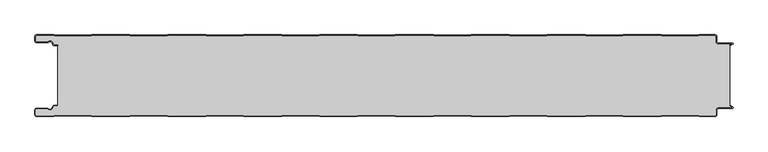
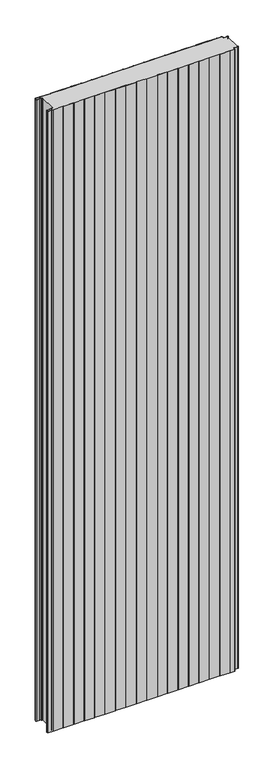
"""IFC4 building model written with IfcOpenShell, lengths in millimetres: plate geometry, ACH_Panel-Frigorífico_PUR-PIR : ACH_Panel-Frigorífico-PIR_120mm."""

from ifc_helpers import new_model, si_unit, point, frame_2d, origin, origin_with_axes, place, context, project, spatial, polyline, circle_curve, trimmed, segment, composite_curve, outline, extrude, source, transform, mapped, element, save


def plate_315d219d(model_context):
    return source(origin(), model_context, "Body", "SweptSolid", [
        extrude(outline(composite_curve([segment(trimmed(circle_curve(frame_2d((-497.49499, -9.0180361)), 2.50501), [point((-497.49499, -11.5230461))], [point((-500.0, -9.0180361))], False, "CARTESIAN"), True, "CONTINUOUS"), segment(polyline([(-500.0, -9.0180361), (-500.0, -2.50501)]), True, "CONTINUOUS"), segment(trimmed(circle_curve(frame_2d((-497.49499, -2.50501)), 2.50501), [point((-500.0, -2.50501))], [point((-497.49499, 0.0))], False, "CARTESIAN"), True, "CONTINUOUS"), segment(polyline([(-497.49499, 0.0), (-472.2103007, 0.0), (-471.028188, -0.6012024), (-417.6391467, -0.6012024), (-416.457034, 0.0), (-360.8776353, 0.0), (-359.6955227, -0.6012024), (-306.3064814, -0.6012024), (-305.1243687, 0.0), (-249.54497, 0.0), (-248.3628573, -0.6012024), (-194.973816, -0.6012024), (-193.7917033, 0.0), (-138.2123047, 0.0), (-137.030192, -0.6012024), (-83.6411507, -0.6012024), (-82.459038, 0.0), (-26.8796393, 0.0), (-25.6975267, -0.6012024), (27.6915146, -0.6012024), (28.8736273, 0.0), (84.453026, 0.0), (85.6351387, -0.6012024), (139.02418, -0.6012024), (140.2062927, 0.0), (195.7856913, 0.0), (196.967804, -0.6012024), (250.3568453, -0.6012024), (251.538958, 0.0), (307.1183566, 0.0), (308.3004693, -0.6012024), (361.6895106, -0.6012024), (362.8716233, 0.0), (418.451022, 0.0), (419.6331347, -0.6012024), (473.022176, -0.6012024), (474.2042886, 0.0), (497.49499, 0.0)]), True, "CONTINUOUS"), segment(trimmed(circle_curve(frame_2d((497.49499, -2.50501)), 2.50501), [point((497.49499, 0.0))], [point((500.0, -2.50501))], False, "CARTESIAN"), True, "CONTINUOUS"), segment(polyline([(500.0, -2.50501), (500.0, -10.0200401)]), True, "CONTINUOUS"), segment(trimmed(circle_curve(frame_2d((502.004008, -10.0200401)), 2.004008), [point((500.0, -10.0200401))], [point((502.004008, -12.0240481))], True, "CARTESIAN"), True, "CONTINUOUS"), segment(polyline([(502.004008, -12.0240481), (523.0460922, -12.0240481)]), True, "CONTINUOUS"), segment(trimmed(circle_curve(frame_2d((523.0460922, -13.0260521)), 1.002004), [point((523.0460922, -12.0240481))], [point((523.5470942, -13.893813))], False, "CARTESIAN"), True, "CONTINUOUS"), segment(polyline([(523.5470942, -13.893813), (519.5390782, -16.2078422), (519.1390782, -15.5150218), (522.183956, -13.7570608)]), True, "CONTINUOUS"), segment(trimmed(circle_curve(frame_2d((521.933956, -13.3240481)), 0.5), [point((522.183956, -13.7570608))], [point((521.933956, -12.8240481))], True, "CARTESIAN"), True, "CONTINUOUS"), segment(polyline([(521.933956, -12.8240481), (502.004008, -12.8240481)]), True, "CONTINUOUS"), segment(trimmed(circle_curve(frame_2d((502.004008, -10.0200401)), 2.804008), [point((502.004008, -12.8240481))], [point((499.2, -10.0200401))], False, "CARTESIAN"), True, "CONTINUOUS"), segment(polyline([(499.2, -10.0200401), (499.2, -2.50501)]), True, "CONTINUOUS"), segment(trimmed(circle_curve(frame_2d((497.49499, -2.50501)), 1.70501), [point((499.2, -2.50501))], [point((497.49499, -0.8))], True, "CARTESIAN"), True, "CONTINUOUS"), segment(polyline([(497.49499, -0.8), (474.396035, -0.8), (473.2139223, -1.4012024), (419.4413883, -1.4012024), (418.2592756, -0.8), (363.0633697, -0.8), (361.881257, -1.4012024), (308.108723, -1.4012024), (306.9266103, -0.8), (251.7307044, -0.8), (250.5485917, -1.4012024), (196.7760576, -1.4012024), (195.5939449, -0.8), (140.398039, -0.8), (139.2159263, -1.4012024), (85.4433923, -1.4012024), (84.2612796, -0.8), (29.0653737, -0.8), (27.883261, -1.4012024), (-25.889273, -1.4012024), (-27.0713857, -0.8), (-82.2672916, -0.8), (-83.4494043, -1.4012024), (-137.2219384, -1.4012024), (-138.4040511, -0.8), (-193.599957, -0.8), (-194.7820696, -1.4012024), (-248.5546037, -1.4012024), (-249.7367164, -0.8), (-304.9326223, -0.8), (-306.114735, -1.4012024), (-359.887269, -1.4012024), (-361.0693817, -0.8), (-416.2652876, -0.8), (-417.4474003, -1.4012024), (-471.2199344, -1.4012024), (-472.4020471, -0.8), (-497.49499, -0.8)]), True, "CONTINUOUS"), segment(trimmed(circle_curve(frame_2d((-497.49499, -2.50501)), 1.70501), [point((-497.49499, -0.8))], [point((-499.2, -2.50501))], True, "CARTESIAN"), True, "CONTINUOUS"), segment(polyline([(-499.2, -2.50501), (-499.2, -9.0180361)]), True, "CONTINUOUS"), segment(trimmed(circle_curve(frame_2d((-497.49499, -9.0180361)), 1.70501), [point((-499.2, -9.0180361))], [point((-497.49499, -10.7230461))], True, "CARTESIAN"), True, "CONTINUOUS"), segment(polyline([(-497.49499, -10.7230461), (-481.8173283, -10.7230461)]), True, "CONTINUOUS"), segment(trimmed(circle_curve(frame_2d((-481.8173283, -9.0180361)), 1.70501), [point((-481.8173283, -10.7230461))], [point((-480.6895701, -10.2967936))], True, "CARTESIAN"), True, "CONTINUOUS"), segment(trimmed(circle_curve(frame_2d((-477.8407481, -13.5270541)), 4.307014), [point((-480.6895701, -10.2967936))], [point((-473.7934788, -12.0539686))], False, "CARTESIAN"), True, "CONTINUOUS"), segment(polyline([(-473.7934788, -12.0539686), (-473.0450711, -14.1102019)]), True, "CONTINUOUS"), segment(trimmed(circle_curve(frame_2d((-471.4428858, -13.5270541)), 1.70501), [point((-473.0450711, -14.1102019))], [point((-471.4428858, -15.2320641))], True, "CARTESIAN"), True, "CONTINUOUS"), segment(polyline([(-471.4428858, -15.2320641), (-466.4328657, -15.2320641), (-466.4328657, -16.0320641), (-471.4428858, -16.0320641)]), True, "CONTINUOUS"), segment(trimmed(circle_curve(frame_2d((-471.4428858, -13.5270541)), 2.50501), [point((-471.4428858, -16.0320641))], [point((-473.7968252, -14.383818))], False, "CARTESIAN"), True, "CONTINUOUS"), segment(polyline([(-473.7968252, -14.383818), (-474.5452329, -12.3275847)]), True, "CONTINUOUS"), segment(trimmed(circle_curve(frame_2d((-477.8407481, -13.5270541)), 3.507014), [point((-474.5452329, -12.3275847))], [point((-480.1604199, -10.8967936))], True, "CARTESIAN"), True, "CONTINUOUS"), segment(trimmed(circle_curve(frame_2d((-481.8173283, -9.0180361)), 2.50501), [point((-480.1604199, -10.8967936))], [point((-481.8173283, -11.5230461))], False, "CARTESIAN"), True, "CONTINUOUS"), segment(polyline([(-481.8173283, -11.5230461), (-497.49499, -11.5230461)]), True, "CONTINUOUS")], self_intersect=False)), origin_with_axes(), (0.0, 0.0, 1.0), 3500.0),
        extrude(outline(composite_curve([segment(trimmed(circle_curve(frame_2d((-471.4428858, -13.5270541)), 1.70501), [point((-471.4428858, -15.2320641))], [point((-473.0450711, -14.1102019))], False, "CARTESIAN"), True, "CONTINUOUS"), segment(polyline([(-473.0450711, -14.1102019), (-473.7934788, -12.0539686)]), True, "CONTINUOUS"), segment(trimmed(circle_curve(frame_2d((-477.8407481, -13.5270541)), 4.307014), [point((-473.7934788, -12.0539686))], [point((-480.6895701, -10.2967936))], True, "CARTESIAN"), True, "CONTINUOUS"), segment(trimmed(circle_curve(frame_2d((-481.8173283, -9.0180361)), 1.70501), [point((-480.6895701, -10.2967936))], [point((-481.8173283, -10.7230461))], False, "CARTESIAN"), True, "CONTINUOUS"), segment(polyline([(-481.8173283, -10.7230461), (-497.49499, -10.7230461)]), True, "CONTINUOUS"), segment(trimmed(circle_curve(frame_2d((-497.49499, -9.0180361)), 1.70501), [point((-497.49499, -10.7230461))], [point((-499.2, -9.0180361))], False, "CARTESIAN"), True, "CONTINUOUS"), segment(polyline([(-499.2, -9.0180361), (-499.2, -2.50501)]), True, "CONTINUOUS"), segment(trimmed(circle_curve(frame_2d((-497.49499, -2.50501)), 1.70501), [point((-499.2, -2.50501))], [point((-497.49499, -0.8))], False, "CARTESIAN"), True, "CONTINUOUS"), segment(polyline([(-497.49499, -0.8), (-472.4020471, -0.8), (-471.2199344, -1.4012024), (-417.4474003, -1.4012024), (-416.2652876, -0.8), (-361.0693817, -0.8), (-359.887269, -1.4012024), (-306.114735, -1.4012024), (-304.9326223, -0.8), (-249.7367164, -0.8), (-248.5546037, -1.4012024), (-194.7820696, -1.4012024), (-193.599957, -0.8), (-138.4040511, -0.8), (-137.2219384, -1.4012024), (-83.4494043, -1.4012024), (-82.2672916, -0.8), (-27.0713857, -0.8), (-25.889273, -1.4012024), (27.883261, -1.4012024), (29.0653737, -0.8), (84.2612796, -0.8), (85.4433923, -1.4012024), (139.2159263, -1.4012024), (140.398039, -0.8), (195.5939449, -0.8), (196.7760576, -1.4012024), (250.5485917, -1.4012024), (251.7307044, -0.8), (306.9266103, -0.8), (308.108723, -1.4012024), (361.881257, -1.4012024), (363.0633697, -0.8), (418.2592756, -0.8), (419.4413883, -1.4012024), (473.2139223, -1.4012024), (474.396035, -0.8), (497.49499, -0.8)]), True, "CONTINUOUS"), segment(trimmed(circle_curve(frame_2d((497.49499, -2.50501)), 1.70501), [point((497.49499, -0.8))], [point((499.2, -2.50501))], False, "CARTESIAN"), True, "CONTINUOUS"), segment(polyline([(499.2, -2.50501), (499.2, -10.0200401)]), True, "CONTINUOUS"), segment(trimmed(circle_curve(frame_2d((502.004008, -10.0200401)), 2.804008), [point((499.2, -10.0200401))], [point((502.004008, -12.8240481))], True, "CARTESIAN"), True, "CONTINUOUS"), segment(polyline([(502.004008, -12.8240481), (521.933956, -12.8240481)]), True, "CONTINUOUS"), segment(trimmed(circle_curve(frame_2d((521.933956, -13.3240481)), 0.5), [point((521.933956, -12.8240481))], [point((522.183956, -13.7570608))], False, "CARTESIAN"), True, "CONTINUOUS"), segment(polyline([(522.183956, -13.7570608), (519.1390782, -15.5150218), (519.1390782, -104.4849782), (522.183956, -106.2429392)]), True, "CONTINUOUS"), segment(trimmed(circle_curve(frame_2d((521.933956, -106.6759519)), 0.5), [point((522.183956, -106.2429392))], [point((521.933956, -107.1759519))], False, "CARTESIAN"), True, "CONTINUOUS"), segment(polyline([(521.933956, -107.1759519), (502.004008, -107.1759519)]), True, "CONTINUOUS"), segment(trimmed(circle_curve(frame_2d((502.004008, -109.9799599)), 2.804008), [point((502.004008, -107.1759519))], [point((499.2, -109.9799599))], True, "CARTESIAN"), True, "CONTINUOUS"), segment(polyline([(499.2, -109.9799599), (499.2, -117.49499)]), True, "CONTINUOUS"), segment(trimmed(circle_curve(frame_2d((497.49499, -117.49499)), 1.70501), [point((499.2, -117.49499))], [point((497.49499, -119.2))], False, "CARTESIAN"), True, "CONTINUOUS"), segment(polyline([(497.49499, -119.2), (474.396035, -119.2), (473.2139223, -118.5987976), (419.4413883, -118.5987976), (418.2592756, -119.2), (363.0633697, -119.2), (361.881257, -118.5987976), (308.108723, -118.5987976), (306.9266103, -119.2), (251.7307044, -119.2), (250.5485917, -118.5987976), (196.7760576, -118.5987976), (195.5939449, -119.2), (140.398039, -119.2), (139.2159263, -118.5987976), (85.4433923, -118.5987976), (84.2612796, -119.2), (29.0653737, -119.2), (27.883261, -118.5987976), (-25.889273, -118.5987976), (-27.0713857, -119.2), (-82.2672916, -119.2), (-83.4494043, -118.5987976), (-137.2219384, -118.5987976), (-138.4040511, -119.2), (-193.599957, -119.2), (-194.7820696, -118.5987976), (-248.5546037, -118.5987976), (-249.7367164, -119.2), (-304.9326223, -119.2), (-306.114735, -118.5987976), (-359.887269, -118.5987976), (-361.0693817, -119.2), (-416.2652876, -119.2), (-417.4474003, -118.5987976), (-471.2199344, -118.5987976), (-472.4020471, -119.2), (-497.49499, -119.2)]), True, "CONTINUOUS"), segment(trimmed(circle_curve(frame_2d((-497.49499, -117.49499)), 1.70501), [point((-497.49499, -119.2))], [point((-499.2, -117.49499))], False, "CARTESIAN"), True, "CONTINUOUS"), segment(polyline([(-499.2, -117.49499), (-499.2, -110.9819639)]), True, "CONTINUOUS"), segment(trimmed(circle_curve(frame_2d((-497.49499, -110.9819639)), 1.70501), [point((-499.2, -110.9819639))], [point((-497.49499, -109.2769539))], False, "CARTESIAN"), True, "CONTINUOUS"), segment(polyline([(-497.49499, -109.2769539), (-481.8173283, -109.2769539)]), True, "CONTINUOUS"), segment(trimmed(circle_curve(frame_2d((-481.8173283, -110.9819639)), 1.70501), [point((-481.8173283, -109.2769539))], [point((-480.6895701, -109.7032064))], False, "CARTESIAN"), True, "CONTINUOUS"), segment(trimmed(circle_curve(frame_2d((-477.8407481, -106.4729459)), 4.307014), [point((-480.6895701, -109.7032064))], [point((-473.7934788, -107.9460314))], True, "CARTESIAN"), True, "CONTINUOUS"), segment(polyline([(-473.7934788, -107.9460314), (-473.0450711, -105.8897981)]), True, "CONTINUOUS"), segment(trimmed(circle_curve(frame_2d((-471.4428858, -106.4729459)), 1.70501), [point((-473.0450711, -105.8897981))], [point((-471.4428858, -104.7679359))], False, "CARTESIAN"), True, "CONTINUOUS"), segment(polyline([(-471.4428858, -104.7679359), (-466.4328657, -104.7679359), (-466.4328657, -15.2320641), (-471.4428858, -15.2320641)]), True, "CONTINUOUS")], self_intersect=False)), origin_with_axes(), (0.0, 0.0, 1.0), 3500.0),
        extrude(outline(composite_curve([segment(polyline([(-497.49499, -108.4769539), (-481.8173283, -108.4769539)]), True, "CONTINUOUS"), segment(trimmed(circle_curve(frame_2d((-481.8173283, -110.9819639)), 2.50501), [point((-481.8173283, -108.4769539))], [point((-480.1604199, -109.1032064))], False, "CARTESIAN"), True, "CONTINUOUS"), segment(trimmed(circle_curve(frame_2d((-477.8407481, -106.4729459)), 3.507014), [point((-480.1604199, -109.1032064))], [point((-474.5452329, -107.6724153))], True, "CARTESIAN"), True, "CONTINUOUS"), segment(polyline([(-474.5452329, -107.6724153), (-473.7968252, -105.616182)]), True, "CONTINUOUS"), segment(trimmed(circle_curve(frame_2d((-471.4428858, -106.4729459)), 2.50501), [point((-473.7968252, -105.616182))], [point((-471.4428858, -103.9679359))], False, "CARTESIAN"), True, "CONTINUOUS"), segment(polyline([(-471.4428858, -103.9679359), (-466.4328657, -103.9679359), (-466.4328657, -104.7679359), (-471.4428858, -104.7679359)]), True, "CONTINUOUS"), segment(trimmed(circle_curve(frame_2d((-471.4428858, -106.4729459)), 1.70501), [point((-471.4428858, -104.7679359))], [point((-473.0450711, -105.8897981))], True, "CARTESIAN"), True, "CONTINUOUS"), segment(polyline([(-473.0450711, -105.8897981), (-473.7934788, -107.9460314)]), True, "CONTINUOUS"), segment(trimmed(circle_curve(frame_2d((-477.8407481, -106.4729459)), 4.307014), [point((-473.7934788, -107.9460314))], [point((-480.6895701, -109.7032064))], False, "CARTESIAN"), True, "CONTINUOUS"), segment(trimmed(circle_curve(frame_2d((-481.8173283, -110.9819639)), 1.70501), [point((-480.6895701, -109.7032064))], [point((-481.8173283, -109.2769539))], True, "CARTESIAN"), True, "CONTINUOUS"), segment(polyline([(-481.8173283, -109.2769539), (-497.49499, -109.2769539)]), True, "CONTINUOUS"), segment(trimmed(circle_curve(frame_2d((-497.49499, -110.9819639)), 1.70501), [point((-497.49499, -109.2769539))], [point((-499.2, -110.9819639))], True, "CARTESIAN"), True, "CONTINUOUS"), segment(polyline([(-499.2, -110.9819639), (-499.2, -117.49499)]), True, "CONTINUOUS"), segment(trimmed(circle_curve(frame_2d((-497.49499, -117.49499)), 1.70501), [point((-499.2, -117.49499))], [point((-497.49499, -119.2))], True, "CARTESIAN"), True, "CONTINUOUS"), segment(polyline([(-497.49499, -119.2), (-472.4020471, -119.2), (-471.2199344, -118.5987976), (-417.4474003, -118.5987976), (-416.2652876, -119.2), (-361.0693817, -119.2), (-359.887269, -118.5987976), (-306.114735, -118.5987976), (-304.9326223, -119.2), (-249.7367164, -119.2), (-248.5546037, -118.5987976), (-194.7820696, -118.5987976), (-193.599957, -119.2), (-138.4040511, -119.2), (-137.2219384, -118.5987976), (-83.4494043, -118.5987976), (-82.2672916, -119.2), (-27.0713857, -119.2), (-25.889273, -118.5987976), (27.883261, -118.5987976), (29.0653737, -119.2), (84.2612796, -119.2), (85.4433923, -118.5987976), (139.2159263, -118.5987976), (140.398039, -119.2), (195.5939449, -119.2), (196.7760576, -118.5987976), (250.5485917, -118.5987976), (251.7307044, -119.2), (306.9266103, -119.2), (308.108723, -118.5987976), (361.881257, -118.5987976), (363.0633697, -119.2), (418.2592756, -119.2), (419.4413883, -118.5987976), (473.2139223, -118.5987976), (474.396035, -119.2), (497.49499, -119.2)]), True, "CONTINUOUS"), segment(trimmed(circle_curve(frame_2d((497.49499, -117.49499)), 1.70501), [point((497.49499, -119.2))], [point((499.2, -117.49499))], True, "CARTESIAN"), True, "CONTINUOUS"), segment(polyline([(499.2, -117.49499), (499.2, -109.9799599)]), True, "CONTINUOUS"), segment(trimmed(circle_curve(frame_2d((502.004008, -109.9799599)), 2.804008), [point((499.2, -109.9799599))], [point((502.004008, -107.1759519))], False, "CARTESIAN"), True, "CONTINUOUS"), segment(polyline([(502.004008, -107.1759519), (521.933956, -107.1759519)]), True, "CONTINUOUS"), segment(trimmed(circle_curve(frame_2d((521.933956, -106.6759519)), 0.5), [point((521.933956, -107.1759519))], [point((522.183956, -106.2429392))], True, "CARTESIAN"), True, "CONTINUOUS"), segment(polyline([(522.183956, -106.2429392), (519.1390782, -104.4849782), (519.5390782, -103.7921578), (523.5470942, -106.106187)]), True, "CONTINUOUS"), segment(trimmed(circle_curve(frame_2d((523.0460922, -106.9739479)), 1.002004), [point((523.5470942, -106.106187))], [point((523.0460922, -107.9759519))], False, "CARTESIAN"), True, "CONTINUOUS"), segment(polyline([(523.0460922, -107.9759519), (502.004008, -107.9759519)]), True, "CONTINUOUS"), segment(trimmed(circle_curve(frame_2d((502.004008, -109.9799599)), 2.004008), [point((502.004008, -107.9759519))], [point((500.0, -109.9799599))], True, "CARTESIAN"), True, "CONTINUOUS"), segment(polyline([(500.0, -109.9799599), (500.0, -117.49499)]), True, "CONTINUOUS"), segment(trimmed(circle_curve(frame_2d((497.49499, -117.49499)), 2.50501), [point((500.0, -117.49499))], [point((497.49499, -120.0))], False, "CARTESIAN"), True, "CONTINUOUS"), segment(polyline([(497.49499, -120.0), (474.2042886, -120.0), (473.022176, -119.3987976), (419.6331347, -119.3987976), (418.451022, -120.0), (362.8716233, -120.0), (361.6895106, -119.3987976), (308.3004693, -119.3987976), (307.1183566, -120.0), (251.538958, -120.0), (250.3568453, -119.3987976), (196.967804, -119.3987976), (195.7856913, -120.0), (140.2062927, -120.0), (139.02418, -119.3987976), (85.6351387, -119.3987976), (84.453026, -120.0), (28.8736273, -120.0), (27.6915146, -119.3987976), (-25.6975267, -119.3987976), (-26.8796393, -120.0), (-82.459038, -120.0), (-83.6411507, -119.3987976), (-137.030192, -119.3987976), (-138.2123047, -120.0), (-193.7917033, -120.0), (-194.973816, -119.3987976), (-248.3628573, -119.3987976), (-249.54497, -120.0), (-305.1243687, -120.0), (-306.3064814, -119.3987976), (-359.6955227, -119.3987976), (-360.8776353, -120.0), (-416.457034, -120.0), (-417.6391467, -119.3987976), (-471.028188, -119.3987976), (-472.2103007, -120.0), (-497.49499, -120.0)]), True, "CONTINUOUS"), segment(trimmed(circle_curve(frame_2d((-497.49499, -117.49499)), 2.50501), [point((-497.49499, -120.0))], [point((-500.0, -117.49499))], False, "CARTESIAN"), True, "CONTINUOUS"), segment(polyline([(-500.0, -117.49499), (-500.0, -110.9819639)]), True, "CONTINUOUS"), segment(trimmed(circle_curve(frame_2d((-497.49499, -110.9819639)), 2.50501), [point((-500.0, -110.9819639))], [point((-497.49499, -108.4769539))], False, "CARTESIAN"), True, "CONTINUOUS")], self_intersect=False)), origin_with_axes(), (0.0, 0.0, 1.0), 3500.0),
    ])


if __name__ == "__main__":
    model = new_model("IFC4")
    model_context = context("Model", 3, world=origin())
    ifc_project = project(units=[si_unit("LENGTHUNIT", "METRE", prefix="MILLI")], contexts=[model_context])
    site = spatial("IfcSite", under=ifc_project)
    building = spatial("IfcBuilding", under=site)
    placement = place(None, origin())
    plate_shape = plate_315d219d(model_context)
    element("IfcPlate", 1, ObjectType="ACH_Panel-Frigorífico_PUR-PIR : ACH_Panel-Frigorífico-PIR_120mm", at=placement, inside=building, context=model_context, shape_type="MappedRepresentation", body=[
        mapped(plate_shape, transform((0.0, 0.0, 0.0), x_axis=(1.0, 0.0, 0.0), y_axis=(0.0, 1.0, 0.0), z_axis=(0.0, 0.0, 1.0))),
    ])
    save(model, "model.ifc")
